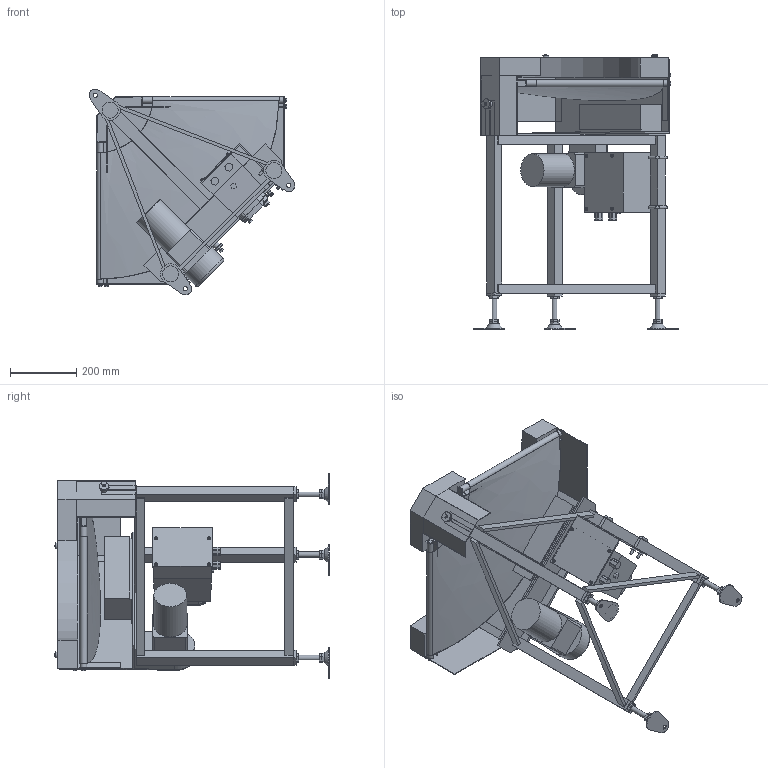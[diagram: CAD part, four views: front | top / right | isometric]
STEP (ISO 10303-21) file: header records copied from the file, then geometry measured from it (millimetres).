
FILE_DESCRIPTION (( 'STEP AP214' ), '1' );
FILE_NAME ('GFBC90-UD300-L.STEP', '2022-09-08T09:08:19', ( '' ), ( '' ), 'SwSTEP 2.0', 'SolidWorks 2017', '' );
FILE_SCHEMA (( 'AUTOMOTIVE_DESIGN' ));
Length unit declared in the file: millimetre
Products named in the file (1): GFBC90-UD300-L
Bounding box: 620.18 x 827.92 x 620.18 mm (x, y, z)
Volume: 20513657.6 mm3; surface area: 3386042.6 mm2
Topology: 54 solids, 55 shells, 956 faces, 2158 edges, 1390 vertices
Faces by surface type: plane 678, cylinder 187, bspline 45, cone 38, torus 6, sphere 2
Full cylindrical faces by diameter (mm): 4 x4, 4.2 x2, 4.5 x1, 5 x4, 5.9 x4, 6 x9, 7 x1, 7.6 x4, 8 x15, 9 x6, 10 x2, 12 x1, 12.2 x2, 12.5 x7, 13 x7, 15 x4, 16 x9, 18 x2, 18.4 x1, 20 x7, 21 x1, 25 x1, 30 x6, 99 x1
Entity records: 44077 total; most frequent: CARTESIAN_POINT 12369, DIRECTION 4079, ORIENTED_EDGE 4010, EDGE_CURVE 2005, LINE 1369, VECTOR 1369, VERTEX_POINT 1361, AXIS2_PLACEMENT_3D 1355
